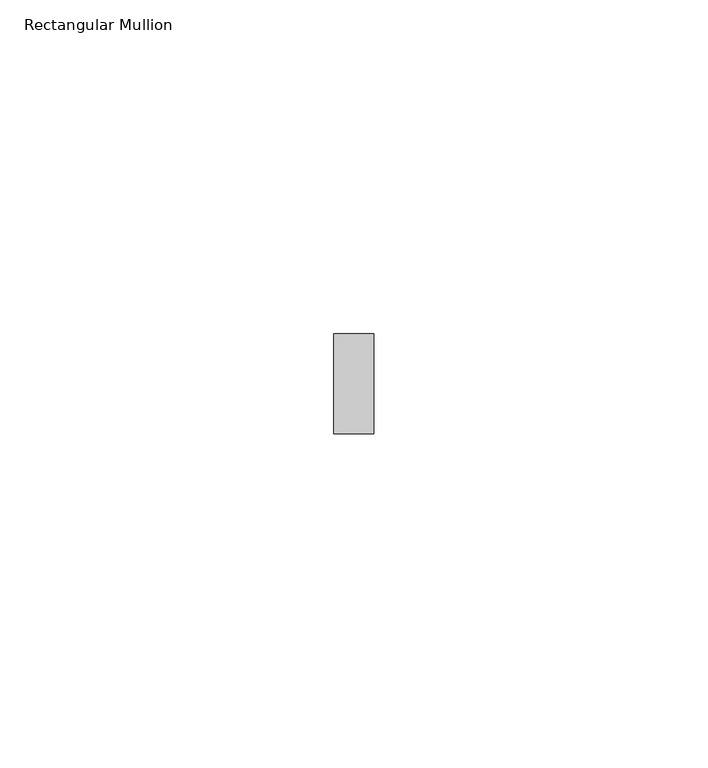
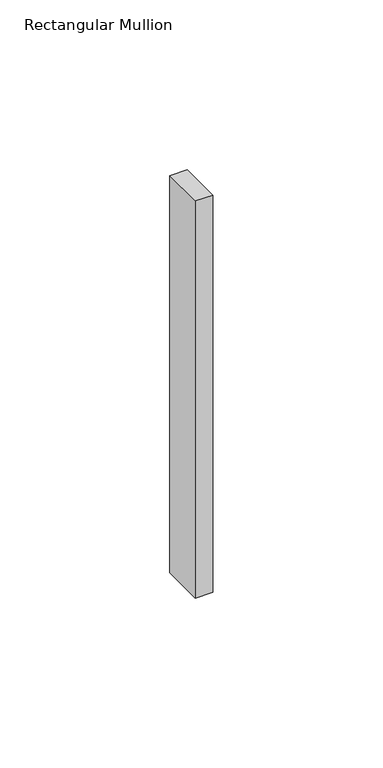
"""IFC4 building model written with IfcOpenShell, lengths in millimetres: member geometry, Rectangular Mullion : ARQ_HERR_15X6mm."""

from ifc_helpers import new_model, si_unit, frame, origin, place, context, project, spatial, polyline, outline, extrude, source, transform, mapped, element, save


def rectangular_mullion_af5448d7(model_context):
    return source(origin(), model_context, "Body", "SweptSolid", [
        extrude(outline(polyline([(0.0, 7.5), (0.0, -7.5), (-6.0, -7.5), (-6.0, 7.5), (0.0, 7.5)])), frame((0.0, 0.0, -142.8571429), z_axis=(0.0, 0.0, 1.0), x_axis=(1.0, 0.0, 0.0)), (0.0, 0.0, 1.0), 142.8571429),
    ])


if __name__ == "__main__":
    model = new_model("IFC4")
    model_context = context("Model", 3, world=origin())
    ifc_project = project(units=[si_unit("LENGTHUNIT", "METRE", prefix="MILLI")], contexts=[model_context])
    site = spatial("IfcSite", under=ifc_project)
    building = spatial("IfcBuilding", under=site)
    placement = place(None, origin())
    rectangular_mullion_shape = rectangular_mullion_af5448d7(model_context)
    element("IfcMember", 1, ObjectType="Rectangular Mullion : ARQ_HERR_15X6mm", at=placement, inside=building, context=model_context, shape_type="MappedRepresentation", body=[
        mapped(rectangular_mullion_shape, transform((0.0, 0.0, 0.0), x_axis=(1.0, 0.0, 0.0), y_axis=(0.0, 1.0, 0.0), z_axis=(0.0, 0.0, 1.0))),
    ])
    save(model, "model.ifc")
